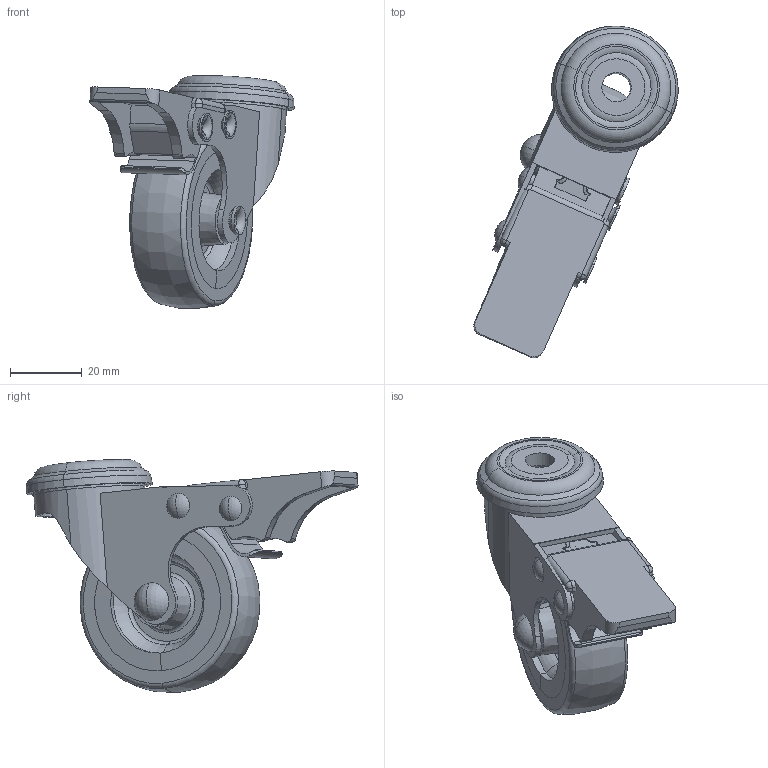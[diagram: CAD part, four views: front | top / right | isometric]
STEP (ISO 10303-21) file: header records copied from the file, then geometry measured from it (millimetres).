
FILE_DESCRIPTION (( 'STEP AP203' ), '1' );
FILE_NAME ('100079_STEP.STEP', '2012-06-11T10:53:39', ( ' ' ), ( '' ), 'SwSTEP 2.0', 'SolidWorks 2011', '' );
FILE_SCHEMA (( 'CONFIG_CONTROL_DESIGN' ));
Length unit declared in the file: millimetre
Products named in the file (1): 100079_STEP
Bounding box: 56.8 x 92.29 x 64.79 mm (x, y, z)
Surface area: 25521.6 mm2 (no closed solid volume)
Topology: 0 solids, 25 shells, 313 faces, 1407 edges, 1085 vertices
Faces by surface type: plane 105, cylinder 98, torus 56, sphere 26, cone 18, bspline 10
Entity records: 16643 total; most frequent: CARTESIAN_POINT 6150, ORIENTED_EDGE 2009, DIRECTION 1961, EDGE_CURVE 1349, VERTEX_POINT 1055, VECTOR 747, LINE 747, AXIS2_PLACEMENT_3D 607
